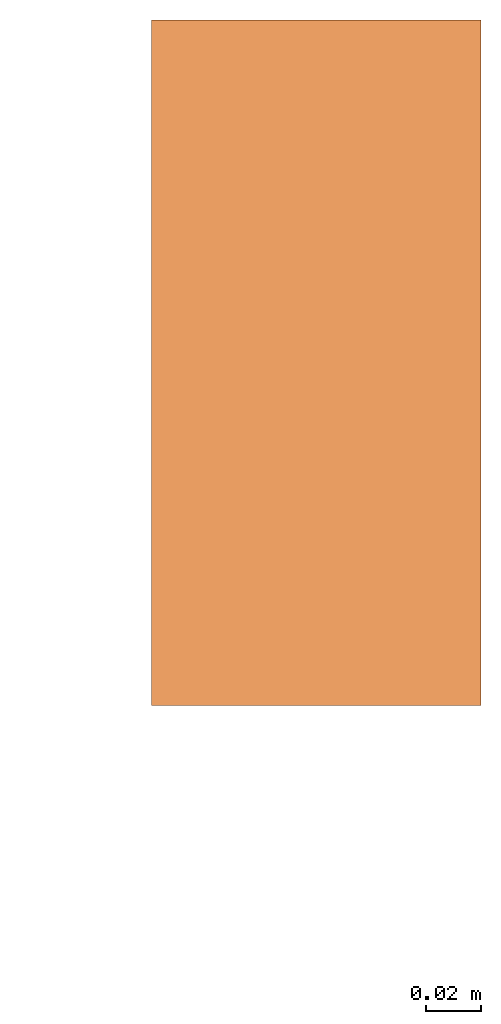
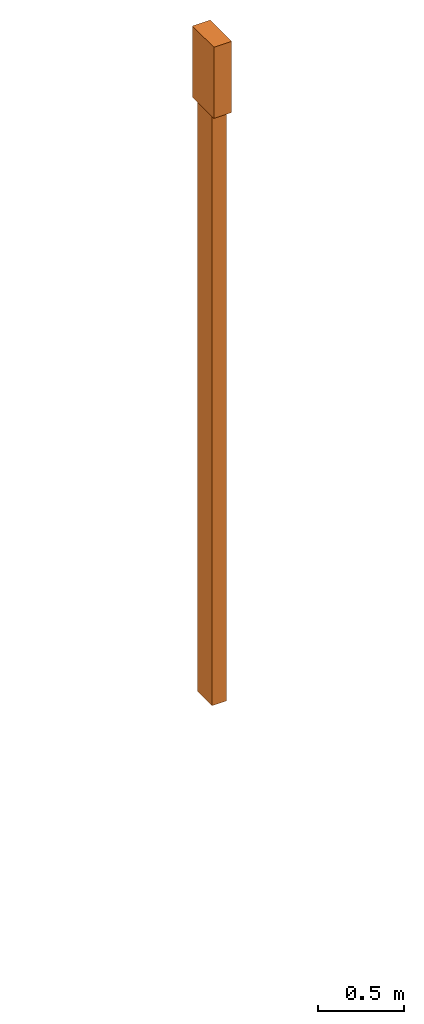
# One storey, part 3 of 3: 1 proxy.
"""IFC2X3 building model written with IfcOpenShell, lengths in centimetres."""

from ifc_helpers import new_model, entity, si_unit, converted_unit, derived_unit, direction, frame, frame_2d, origin, origin_2d_with_axis, place, context, subcontext, project, spatial, rectangle, extrude, source, transform, mapped, type_object, type_shapes, element, save


model = new_model("IFC2X3")

# Units and contexts
model_context = context("Model", 3, precision=0.001, world=origin(), true_north=direction((6.12303176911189e-17, 1.0)))
body_context = subcontext(model_context, "Body", "Model", "MODEL_VIEW")
ifc_project = project(units=[si_unit("LENGTHUNIT", "METRE", prefix="CENTI"), si_unit("AREAUNIT", "SQUARE_METRE"), si_unit("VOLUMEUNIT", "CUBIC_METRE"), converted_unit("PLANEANGLEUNIT", "DEGREE", entity("IfcRatioMeasure", 0.0174532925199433), si_unit("PLANEANGLEUNIT", "RADIAN"), dimensions=[0, 0, 0, 0, 0, 0, 0]), si_unit("MASSUNIT", "GRAM", prefix="KILO"), si_unit("TIMEUNIT", "SECOND"), si_unit("FREQUENCYUNIT", "HERTZ"), si_unit("THERMODYNAMICTEMPERATUREUNIT", "DEGREE_CELSIUS"), derived_unit("THERMALTRANSMITTANCEUNIT", [(si_unit("MASSUNIT", "GRAM", prefix="KILO"), 1), (si_unit("THERMODYNAMICTEMPERATUREUNIT", "KELVIN"), -1), (si_unit("TIMEUNIT", "SECOND"), -3)]), derived_unit("VOLUMETRICFLOWRATEUNIT", [(si_unit("LENGTHUNIT", "METRE"), 3), (si_unit("TIMEUNIT", "SECOND"), -1)]), si_unit("ELECTRICCURRENTUNIT", "AMPERE"), si_unit("ELECTRICVOLTAGEUNIT", "VOLT"), si_unit("POWERUNIT", "WATT"), si_unit("FORCEUNIT", "NEWTON", prefix="KILO"), si_unit("ILLUMINANCEUNIT", "LUX"), si_unit("LUMINOUSFLUXUNIT", "LUMEN"), si_unit("LUMINOUSINTENSITYUNIT", "CANDELA"), derived_unit("USERDEFINED", [(si_unit("MASSUNIT", "GRAM", prefix="KILO"), -1), (si_unit("LENGTHUNIT", "METRE"), -2), (si_unit("TIMEUNIT", "SECOND"), 3), (si_unit("LUMINOUSFLUXUNIT", "LUMEN"), 1)]), derived_unit("LINEARVELOCITYUNIT", [(si_unit("LENGTHUNIT", "METRE"), 1), (si_unit("TIMEUNIT", "SECOND"), -1)]), si_unit("PRESSUREUNIT", "PASCAL"), derived_unit("USERDEFINED", [(si_unit("LENGTHUNIT", "METRE"), -2), (si_unit("MASSUNIT", "GRAM", prefix="KILO"), 1), (si_unit("TIMEUNIT", "SECOND"), -2)])], contexts=[model_context])

# Site, building, storey
site_placement = place(None, frame((8.62739174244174, -249.285249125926, 0.0)))
site = spatial("IfcSite", under=ifc_project, at=site_placement, Name="Default", CompositionType="ELEMENT")
building_placement = place(site_placement, origin())
building = spatial("IfcBuilding", under=site, at=building_placement, CompositionType="ELEMENT")
storey_placement = place(building_placement, frame((0.0, 0.0, 722.0)))
storey = spatial("IfcBuildingStorey", under=building, at=storey_placement, Name="Acrotère E2", CompositionType="ELEMENT", Elevation=722.0)

# Proxy
building_element_proxy_type = type_object("IfcBuildingElementProxyType", Name="descenteEP", PredefinedType="NOTDEFINED")
shared_shape = source(origin(), body_context, "Body", "SweptSolid", [
    extrude(rectangle(XDim=10.0, YDim=17.0, at=frame_2d((0.0, 3.5527136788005e-15), x_axis=(1.0, 0.0))), frame((0.0, 0.0, -420.0), z_axis=(0.0, 0.0, 1.0), x_axis=(0.0, -1.0, 0.0)), (0.0, 0.0, 1.0), 420.0),
    extrude(rectangle(XDim=12.0, YDim=25.0, at=origin_2d_with_axis()), frame((0.0, 0.0, 0.0), z_axis=(0.0, 0.0, 1.0), x_axis=(0.0, 1.0, 0.0)), (0.0, 0.0, 1.0), 50.5380588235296),
])
type_shapes(building_element_proxy_type, [shared_shape])
proxy_placement = place(storey_placement, frame((3086.90482779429, 6632.98020812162, 79.0), z_axis=(0.0, 0.0, 1.0), x_axis=(0.0, 1.0, 0.0)))
element("IfcBuildingElementProxy", 1, at=proxy_placement, inside=storey, type_object=building_element_proxy_type, Name="descenteEP:descenteEP", ObjectType="descenteEP", context=body_context, shape_type="MappedRepresentation", body=[
    mapped(shared_shape, transform((0.0, 0.0, 0.0), scale=1.0)),
])

save(model, "model.ifc")
